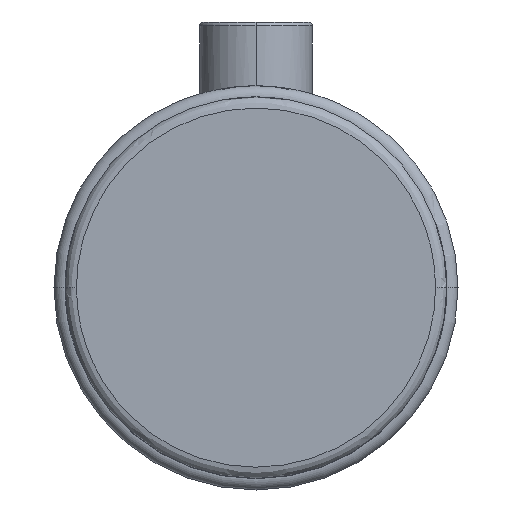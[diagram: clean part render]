
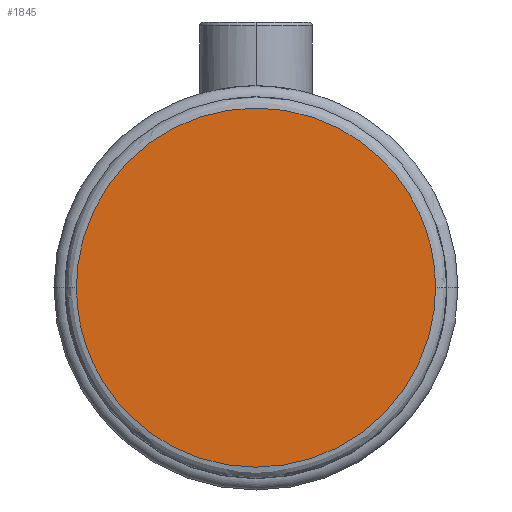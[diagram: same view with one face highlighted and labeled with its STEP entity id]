
A CAD part, top view. The second image highlights one B-rep face of the part: STEP entity #1845.
In plain terms, the highlighted planar face has unit normal (0, 0, 1).
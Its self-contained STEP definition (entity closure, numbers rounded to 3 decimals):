
#174 =( BOUNDED_CURVE ( )  B_SPLINE_CURVE ( 3, ( #11385, #5345, #12395, #6364 ),
 .UNSPECIFIED., .F., .T. ) 
 B_SPLINE_CURVE_WITH_KNOTS ( ( 4, 4 ),
 ( 0.25, 0.75 ),
 .UNSPECIFIED. ) 
 CURVE ( )  GEOMETRIC_REPRESENTATION_ITEM ( )  RATIONAL_B_SPLINE_CURVE ( ( 1., 0.333, 0.333, 1. ) ) 
 REPRESENTATION_ITEM ( '' )  );
#1845 = ADVANCED_FACE ( 'NONE', ( #3267 ), #11509, .T. ) ;
#2912 = CARTESIAN_POINT ( 'NONE',  ( -47.8, 0., 50. ) ) ;
#3267 = FACE_OUTER_BOUND ( 'NONE', #4290, .T. ) ;
#3483 = CARTESIAN_POINT ( 'NONE',  ( 0., 25.4, 50. ) ) ;
#4290 = EDGE_LOOP ( 'NONE', ( #7154, #11377 ) ) ;
#4405 = VERTEX_POINT ( 'NONE', #10360 ) ;
#4486 = DIRECTION ( 'NONE',  ( 0., -1., 0. ) ) ;
#5339 =( BOUNDED_CURVE ( )  B_SPLINE_CURVE ( 3, ( #2912, #10727, #12755, #6717 ),
 .UNSPECIFIED., .F., .T. ) 
 B_SPLINE_CURVE_WITH_KNOTS ( ( 4, 4 ),
 ( 0.75, 1.25 ),
 .UNSPECIFIED. ) 
 CURVE ( )  GEOMETRIC_REPRESENTATION_ITEM ( )  RATIONAL_B_SPLINE_CURVE ( ( 1., 0.333, 0.333, 1. ) ) 
 REPRESENTATION_ITEM ( '' )  );
#5345 = CARTESIAN_POINT ( 'NONE',  ( 47.8, -95.6, 50. ) ) ;
#5955 = CARTESIAN_POINT ( 'NONE',  ( -47.8, 0., 50. ) ) ;
#6364 = CARTESIAN_POINT ( 'NONE',  ( -47.8, 0., 50. ) ) ;
#6717 = CARTESIAN_POINT ( 'NONE',  ( 47.8, 0., 50. ) ) ;
#7154 = ORIENTED_EDGE ( 'NONE', *, *, #12793, .F. ) ;
#7610 = EDGE_CURVE ( 'NONE', #10743, #4405, #5339, .T. ) ;
#10032 = AXIS2_PLACEMENT_3D ( 'NONE', #3483, #10551, #4486 ) ;
#10360 = CARTESIAN_POINT ( 'NONE',  ( 47.8, 0., 50. ) ) ;
#10551 = DIRECTION ( 'NONE',  ( 0., 0., 1. ) ) ;
#10727 = CARTESIAN_POINT ( 'NONE',  ( -47.8, 95.6, 50. ) ) ;
#10743 = VERTEX_POINT ( 'NONE', #5955 ) ;
#11377 = ORIENTED_EDGE ( 'NONE', *, *, #7610, .F. ) ;
#11385 = CARTESIAN_POINT ( 'NONE',  ( 47.8, 0., 50. ) ) ;
#11509 = PLANE ( 'NONE',  #10032 ) ;
#12395 = CARTESIAN_POINT ( 'NONE',  ( -47.8, -95.6, 50. ) ) ;
#12755 = CARTESIAN_POINT ( 'NONE',  ( 47.8, 95.6, 50. ) ) ;
#12793 = EDGE_CURVE ( 'NONE', #4405, #10743, #174, .T. ) ;
